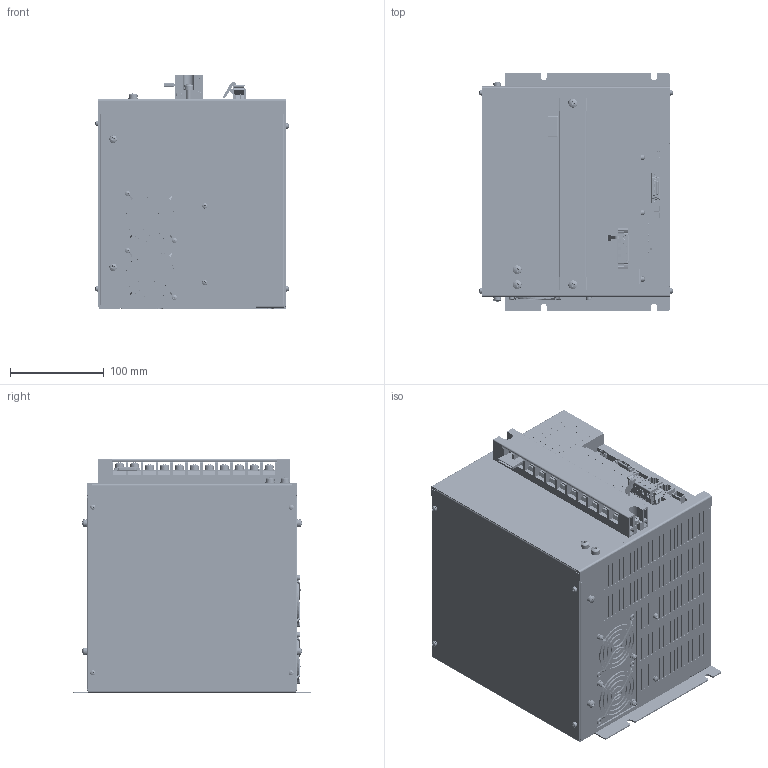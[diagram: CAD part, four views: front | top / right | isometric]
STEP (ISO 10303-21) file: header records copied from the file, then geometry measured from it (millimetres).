
FILE_DESCRIPTION (( 'STEP AP203' ), '1' );
FILE_NAME ('NCR-HD3_702#SE-97700.STEP', '2021-07-07T07:06:30', ( '' ), ( '' ), 'SwSTEP 2.0', 'SolidWorks 2018', '' );
FILE_SCHEMA (( 'CONFIG_CONTROL_DESIGN' ));
Products named in the file (1): NCR-HD3_702#SE-97700
Bounding box: 207.11 x 255 x 251 mm (x, y, z)
Volume: 10099078.9 mm3; surface area: 417646.3 mm2
Topology: 4 solids, 41 shells, 13979 faces, 37941 edges, 24734 vertices
Faces by surface type: plane 9293, cylinder 2167, bspline 1668, cone 575, torus 196, sphere 80
Entity records: 489996 total; most frequent: CARTESIAN_POINT 144218, ORIENTED_EDGE 75698, DIRECTION 65265, EDGE_CURVE 37849, LINE 27085, VECTOR 27085, VERTEX_POINT 24734, AXIS2_PLACEMENT_3D 19090
